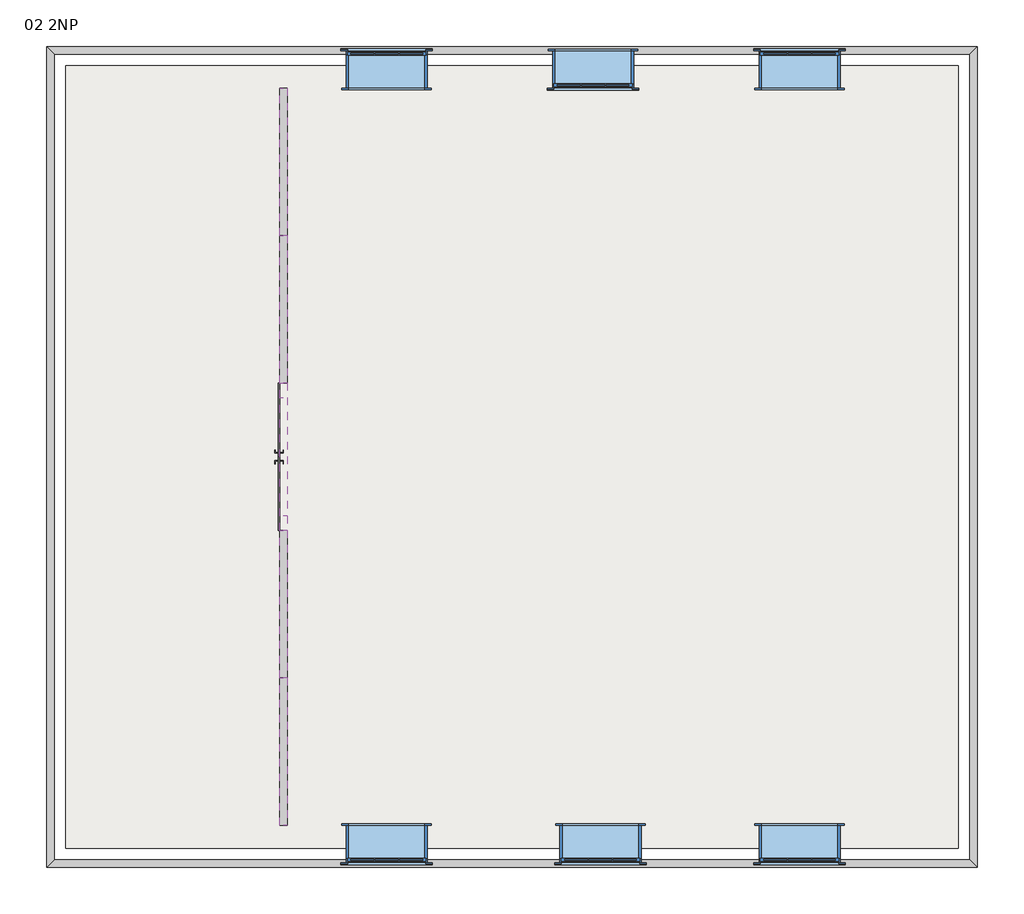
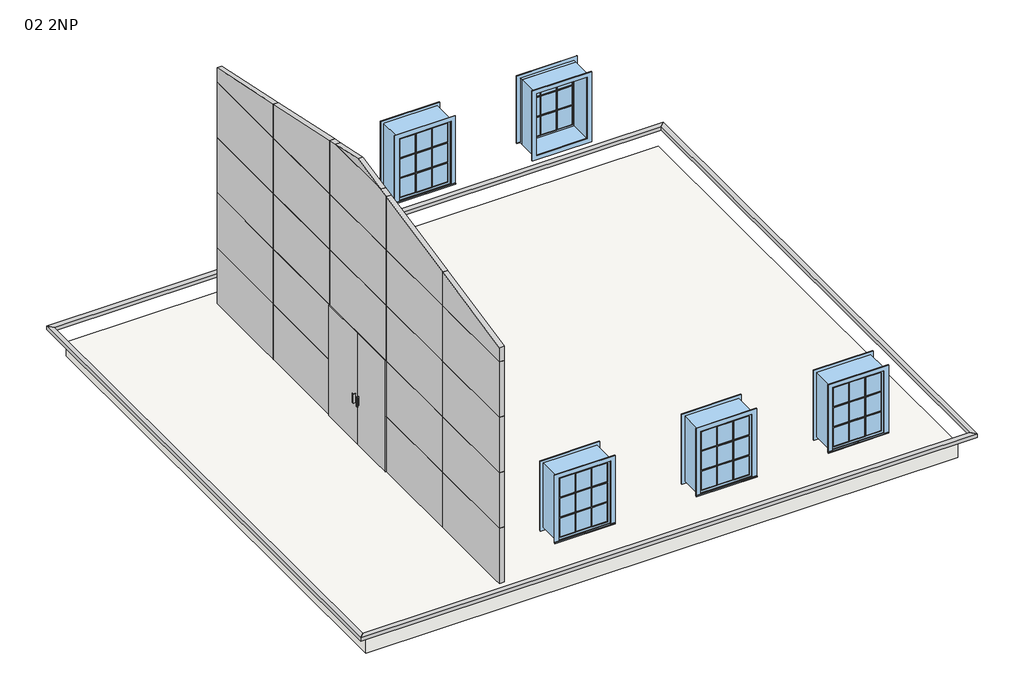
# One storey: 25 plates, 6 windows, 4 proxies, 1 slab.
"""IFC4 building model written with IfcOpenShell, lengths in millimetres."""

from ifc_helpers import new_model, si_unit, frame, origin, place, context, project, spatial, polyline, outline, extrude, transform, mapped, element, save
from components import plate_c616a44a, sklo_1a5bc644, sklo_a22fa24e, sklo_d17d486e, sklo_ce9b099a, sklo_6f6820dd, sklo_655bdac8, sklo_9e8ff6f6, m_casement_3x3_with_trim_1100x1400_47dc13a1, m_casement_3x3_with_trim_1100x1400_3cb4fc06

model = new_model("IFC4")

# Units and contexts
model_context = context("Model", 3, world=origin())
ifc_project = project(units=[si_unit("LENGTHUNIT", "METRE", prefix="MILLI")], contexts=[model_context])

# Site, building, storey
site = spatial("IfcSite", under=ifc_project)
building = spatial("IfcBuilding", under=site)
storey = spatial("IfcBuildingStorey", under=building, Name="02 2NP", Elevation=3000.0)

# Proxies
placement = place(None, origin())
element("IfcBuildingElementProxy", 1, Name="Reveals", at=placement, inside=storey, context=model_context, shape_type="SweptSolid", body=[
    extrude(outline(polyline([(27625.9387685, 14294.5937321), (27728.4387685, 14397.0937321), (40148.4387685, 14397.0937321), (40250.9387685, 14294.5937321), (27625.9387685, 14294.5937321)])), frame((0.0, 0.0, 3200.0), z_axis=(0.0, 0.0, 1.0), x_axis=(1.0, 0.0, 0.0)), (0.0, 0.0, 1.0), 75.0),
])
element("IfcBuildingElementProxy", 2, Name="Reveals", at=placement, inside=storey, context=model_context, shape_type="SweptSolid", body=[
    extrude(outline(polyline([(27625.9387685, 25429.5937321), (27728.4387685, 25327.0937321), (27728.4387685, 14397.0937321), (27625.9387685, 14294.5937321), (27625.9387685, 25429.5937321)])), frame((0.0, 0.0, 3200.0), z_axis=(0.0, 0.0, 1.0), x_axis=(1.0, 0.0, 0.0)), (0.0, 0.0, 1.0), 75.0),
])
element("IfcBuildingElementProxy", 3, Name="Reveals", at=placement, inside=storey, context=model_context, shape_type="SweptSolid", body=[
    extrude(outline(polyline([(40250.9387685, 25429.5937321), (40148.4387685, 25327.0937321), (27728.4387685, 25327.0937321), (27625.9387685, 25429.5937321), (40250.9387685, 25429.5937321)])), frame((0.0, 0.0, 3200.0), z_axis=(0.0, 0.0, 1.0), x_axis=(1.0, 0.0, 0.0)), (0.0, 0.0, 1.0), 75.0),
])
element("IfcBuildingElementProxy", 4, Name="Reveals", at=placement, inside=storey, context=model_context, shape_type="SweptSolid", body=[
    extrude(outline(polyline([(40250.9387685, 14294.5937321), (40148.4387685, 14397.0937321), (40148.4387685, 25327.0937321), (40250.9387685, 25429.5937321), (40250.9387685, 14294.5937321)])), frame((0.0, 0.0, 3200.0), z_axis=(0.0, 0.0, 1.0), x_axis=(1.0, 0.0, 0.0)), (0.0, 0.0, 1.0), 75.0),
])

# Plates
plate_shape = plate_c616a44a(model_context)
element("IfcPlate", 5, ObjectType="Panel-DvereDvoukridle : Obv.plast - Dvoukridle", at=placement, inside=storey, context=model_context, shape_type="MappedRepresentation", body=[
    mapped(plate_shape, transform((30738.4387685, 19862.0937321, 3000.0), x_axis=(0.0, -1.0, 0.0), y_axis=(1.0, 0.0, 0.0), z_axis=(0.0, 0.0, 1.0))),
])
sklo_shape = sklo_1a5bc644(model_context)
element("IfcPlate", 6, ObjectType="Systémový panel : Sklo", at=placement, inside=storey, context=model_context, shape_type="MappedRepresentation", body=[
    mapped(sklo_shape, transform((30738.4387685, 23862.0937321, 3000.0), x_axis=(0.0, -1.0, 0.0), y_axis=(1.0, 0.0, 0.0), z_axis=(0.0, 0.0, 1.0))),
])
element("IfcPlate", 7, ObjectType="Systémový panel : Sklo", at=placement, inside=storey, context=model_context, shape_type="MappedRepresentation", body=[
    mapped(sklo_shape, transform((30738.4387685, 21862.0937321, 3000.0), x_axis=(0.0, -1.0, 0.0), y_axis=(1.0, 0.0, 0.0), z_axis=(0.0, 0.0, 1.0))),
])
element("IfcPlate", 8, ObjectType="Systémový panel : Sklo", at=placement, inside=storey, context=model_context, shape_type="MappedRepresentation", body=[
    mapped(sklo_shape, transform((30738.4387685, 17862.0937321, 3000.0), x_axis=(0.0, -1.0, 0.0), y_axis=(1.0, 0.0, 0.0), z_axis=(0.0, 0.0, 1.0))),
])
element("IfcPlate", 9, ObjectType="Systémový panel : Sklo", at=placement, inside=storey, context=model_context, shape_type="MappedRepresentation", body=[
    mapped(sklo_shape, transform((30738.4387685, 15862.0937321, 3000.0), x_axis=(0.0, -1.0, 0.0), y_axis=(1.0, 0.0, 0.0), z_axis=(0.0, 0.0, 1.0))),
])
element("IfcPlate", 10, ObjectType="Systémový panel : Sklo", at=placement, inside=storey, context=model_context, shape_type="MappedRepresentation", body=[
    mapped(sklo_shape, transform((30738.4387685, 23862.0937321, 4200.0), x_axis=(0.0, -1.0, 0.0), y_axis=(1.0, 0.0, 0.0), z_axis=(0.0, 0.0, 1.0))),
])
element("IfcPlate", 11, ObjectType="Systémový panel : Sklo", at=placement, inside=storey, context=model_context, shape_type="MappedRepresentation", body=[
    mapped(sklo_shape, transform((30738.4387685, 21862.0937321, 4200.0), x_axis=(0.0, -1.0, 0.0), y_axis=(1.0, 0.0, 0.0), z_axis=(0.0, 0.0, 1.0))),
])
element("IfcPlate", 12, ObjectType="Systémový panel : Sklo", at=placement, inside=storey, context=model_context, shape_type="MappedRepresentation", body=[
    mapped(sklo_shape, transform((30738.4387685, 17862.0937321, 4200.0), x_axis=(0.0, -1.0, 0.0), y_axis=(1.0, 0.0, 0.0), z_axis=(0.0, 0.0, 1.0))),
])
element("IfcPlate", 13, ObjectType="Systémový panel : Sklo", at=placement, inside=storey, context=model_context, shape_type="MappedRepresentation", body=[
    mapped(sklo_shape, transform((30738.4387685, 15862.0937321, 4200.0), x_axis=(0.0, -1.0, 0.0), y_axis=(1.0, 0.0, 0.0), z_axis=(0.0, 0.0, 1.0))),
])
element("IfcPlate", 14, ObjectType="Systémový panel : Sklo", at=placement, inside=storey, context=model_context, shape_type="MappedRepresentation", body=[
    mapped(sklo_shape, transform((30738.4387685, 23862.0937321, 5400.0), x_axis=(0.0, -1.0, 0.0), y_axis=(1.0, 0.0, 0.0), z_axis=(0.0, 0.0, 1.0))),
])
element("IfcPlate", 15, ObjectType="Systémový panel : Sklo", at=placement, inside=storey, context=model_context, shape_type="MappedRepresentation", body=[
    mapped(sklo_shape, transform((30738.4387685, 21862.0937321, 5400.0), x_axis=(0.0, -1.0, 0.0), y_axis=(1.0, 0.0, 0.0), z_axis=(0.0, 0.0, 1.0))),
])
element("IfcPlate", 16, ObjectType="Systémový panel : Sklo", at=placement, inside=storey, context=model_context, shape_type="MappedRepresentation", body=[
    mapped(sklo_shape, transform((30738.4387685, 19862.0937321, 5400.0), x_axis=(0.0, -1.0, 0.0), y_axis=(1.0, 0.0, 0.0), z_axis=(0.0, 0.0, 1.0))),
])
element("IfcPlate", 17, ObjectType="Systémový panel : Sklo", at=placement, inside=storey, context=model_context, shape_type="MappedRepresentation", body=[
    mapped(sklo_shape, transform((30738.4387685, 17862.0937321, 5400.0), x_axis=(0.0, -1.0, 0.0), y_axis=(1.0, 0.0, 0.0), z_axis=(0.0, 0.0, 1.0))),
])
element("IfcPlate", 18, ObjectType="Systémový panel : Sklo", at=placement, inside=storey, context=model_context, shape_type="MappedRepresentation", body=[
    mapped(sklo_shape, transform((30738.4387685, 15862.0937321, 5400.0), x_axis=(0.0, -1.0, 0.0), y_axis=(1.0, 0.0, 0.0), z_axis=(0.0, 0.0, 1.0))),
])
element("IfcPlate", 19, ObjectType="Systémový panel : Sklo", at=placement, inside=storey, context=model_context, shape_type="MappedRepresentation", body=[
    mapped(sklo_shape, transform((30738.4387685, 23862.0937321, 6600.0), x_axis=(0.0, -1.0, 0.0), y_axis=(1.0, 0.0, 0.0), z_axis=(0.0, 0.0, 1.0))),
])
element("IfcPlate", 20, ObjectType="Systémový panel : Sklo", at=placement, inside=storey, context=model_context, shape_type="MappedRepresentation", body=[
    mapped(sklo_shape, transform((30738.4387685, 21862.0937321, 6600.0), x_axis=(0.0, -1.0, 0.0), y_axis=(1.0, 0.0, 0.0), z_axis=(0.0, 0.0, 1.0))),
])
element("IfcPlate", 21, ObjectType="Systémový panel : Sklo", at=placement, inside=storey, context=model_context, shape_type="MappedRepresentation", body=[
    mapped(sklo_shape, transform((30738.4387685, 19862.0937321, 6600.0), x_axis=(0.0, -1.0, 0.0), y_axis=(1.0, 0.0, 0.0), z_axis=(0.0, 0.0, 1.0))),
])
element("IfcPlate", 22, ObjectType="Systémový panel : Sklo", at=placement, inside=storey, context=model_context, shape_type="MappedRepresentation", body=[
    mapped(sklo_shape, transform((30738.4387685, 17862.0937321, 6600.0), x_axis=(0.0, -1.0, 0.0), y_axis=(1.0, 0.0, 0.0), z_axis=(0.0, 0.0, 1.0))),
])
element("IfcPlate", 23, ObjectType="Systémový panel : Sklo", at=placement, inside=storey, context=model_context, shape_type="MappedRepresentation", body=[
    mapped(sklo_shape, transform((30738.4387685, 15862.0937321, 6600.0), x_axis=(0.0, -1.0, 0.0), y_axis=(1.0, 0.0, 0.0), z_axis=(0.0, 0.0, 1.0))),
])
sklo_2_shape = sklo_a22fa24e(model_context)
element("IfcPlate", 24, ObjectType="Systémový panel : Sklo", at=placement, inside=storey, context=model_context, shape_type="MappedRepresentation", body=[
    mapped(sklo_2_shape, transform((30738.4387685, 23862.0937321, 7800.0), x_axis=(0.0, -1.0, 0.0), y_axis=(1.0, 0.0, 0.0), z_axis=(0.0, 0.0, 1.0))),
])
sklo_3_shape = sklo_d17d486e(model_context)
element("IfcPlate", 25, ObjectType="Systémový panel : Sklo", at=placement, inside=storey, context=model_context, shape_type="MappedRepresentation", body=[
    mapped(sklo_3_shape, transform((30738.4387685, 21862.0937321, 7800.0), x_axis=(0.0, -1.0, 0.0), y_axis=(1.0, 0.0, 0.0), z_axis=(0.0, 0.0, 1.0))),
])
sklo_4_shape = sklo_ce9b099a(model_context)
element("IfcPlate", 26, ObjectType="Systémový panel : Sklo", at=placement, inside=storey, context=model_context, shape_type="MappedRepresentation", body=[
    mapped(sklo_4_shape, transform((30738.4387685, 17862.0937321, 7800.0), x_axis=(0.0, -1.0, 0.0), y_axis=(1.0, 0.0, 0.0), z_axis=(0.0, 0.0, 1.0))),
])
sklo_5_shape = sklo_6f6820dd(model_context)
element("IfcPlate", 27, ObjectType="Systémový panel : Sklo", at=placement, inside=storey, context=model_context, shape_type="MappedRepresentation", body=[
    mapped(sklo_5_shape, transform((30738.4387685, 15862.0937321, 7800.0), x_axis=(0.0, -1.0, 0.0), y_axis=(1.0, 0.0, 0.0), z_axis=(0.0, 0.0, 1.0))),
])
sklo_6_shape = sklo_655bdac8(model_context)
element("IfcPlate", 28, ObjectType="Systémový panel : Sklo", at=placement, inside=storey, context=model_context, shape_type="MappedRepresentation", body=[
    mapped(sklo_6_shape, transform((30738.4387685, 19862.0937321, 7800.0), x_axis=(0.0, -1.0, 0.0), y_axis=(1.0, 0.0, 0.0), z_axis=(0.0, 0.0, 1.0))),
])
sklo_7_shape = sklo_9e8ff6f6(model_context)
element("IfcPlate", 29, ObjectType="Systémový panel : Sklo", at=placement, inside=storey, context=model_context, shape_type="MappedRepresentation", body=[
    mapped(sklo_7_shape, transform((30738.4387685, 19862.0937321, 9000.0), x_axis=(0.0, -1.0, 0.0), y_axis=(1.0, 0.0, 0.0), z_axis=(0.0, 0.0, 1.0))),
])

# Slab
element("IfcSlab", 30, ObjectType="Standardní 300 mm", at=placement, inside=storey, context=model_context, shape_type="SweptSolid", body=[
    extrude(outline(polyline([(27883.4387685, 14552.0937321), (27883.4387685, 25172.0937321), (39993.4387685, 25172.0937321), (39993.4387685, 14552.0937321), (27883.4387685, 14552.0937321)])), frame((0.0, 0.0, 2700.0), z_axis=(0.0, 0.0, 1.0), x_axis=(1.0, 0.0, 0.0)), (0.0, 0.0, 1.0), 300.0),
])

# Windows
m_casement_3x3_with_trim_1100x1400_shape = m_casement_3x3_with_trim_1100x1400_47dc13a1(model_context)
element("IfcWindow", 31, ObjectType="M_Casement 3x3 with Trim : 1100x1400", at=placement, inside=storey, context=model_context, shape_type="MappedRepresentation", body=[
    mapped(m_casement_3x3_with_trim_1100x1400_shape, transform((32238.4387685, 14607.0937321, 2985.0), x_axis=(-1.0, 0.0, 0.0), y_axis=(0.0, -1.0, 0.0), z_axis=(0.0, 0.0, 1.0))),
])
element("IfcWindow", 32, ObjectType="M_Casement 3x3 with Trim : 1100x1400", at=placement, inside=storey, context=model_context, shape_type="MappedRepresentation", body=[
    mapped(m_casement_3x3_with_trim_1100x1400_shape, transform((35138.4387685, 14607.0937321, 2985.0), x_axis=(-1.0, 0.0, 0.0), y_axis=(0.0, -1.0, 0.0), z_axis=(0.0, 0.0, 1.0))),
])
element("IfcWindow", 33, ObjectType="M_Casement 3x3 with Trim : 1100x1400", at=placement, inside=storey, context=model_context, shape_type="MappedRepresentation", body=[
    mapped(m_casement_3x3_with_trim_1100x1400_shape, transform((37838.4387685, 14607.0937321, 2985.0), x_axis=(-1.0, 0.0, 0.0), y_axis=(0.0, -1.0, 0.0), z_axis=(0.0, 0.0, 1.0))),
])
m_casement_3x3_with_trim_1100x1400_2_shape = m_casement_3x3_with_trim_1100x1400_3cb4fc06(model_context)
element("IfcWindow", 34, ObjectType="M_Casement 3x3 with Trim : 1100x1400", at=placement, inside=storey, context=model_context, shape_type="MappedRepresentation", body=[
    mapped(m_casement_3x3_with_trim_1100x1400_2_shape, transform((32238.4387685, 25117.0937321, 2985.0), x_axis=(-1.0, 0.0, 0.0), y_axis=(0.0, -1.0, 0.0), z_axis=(0.0, 0.0, 1.0))),
])
element("IfcWindow", 35, ObjectType="M_Casement 3x3 with Trim : 1100x1400", at=placement, inside=storey, context=model_context, shape_type="MappedRepresentation", body=[
    mapped(m_casement_3x3_with_trim_1100x1400_2_shape, transform((37838.4387685, 25117.0937321, 2985.0), x_axis=(-1.0, 0.0, 0.0), y_axis=(0.0, -1.0, 0.0), z_axis=(0.0, 0.0, 1.0))),
])
element("IfcWindow", 36, ObjectType="M_Casement 3x3 with Trim : 1100x1400", at=placement, inside=storey, context=model_context, shape_type="MappedRepresentation", body=[
    mapped(m_casement_3x3_with_trim_1100x1400_shape, transform((35038.4387685, 25117.0937321, 2985.0), x_axis=(-1.0, 0.0, 0.0), y_axis=(0.0, -1.0, 0.0), z_axis=(0.0, 0.0, 1.0))),
])

save(model, "model.ifc")
